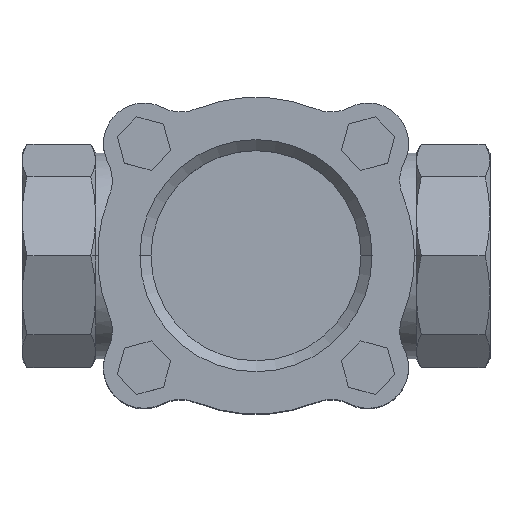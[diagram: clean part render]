
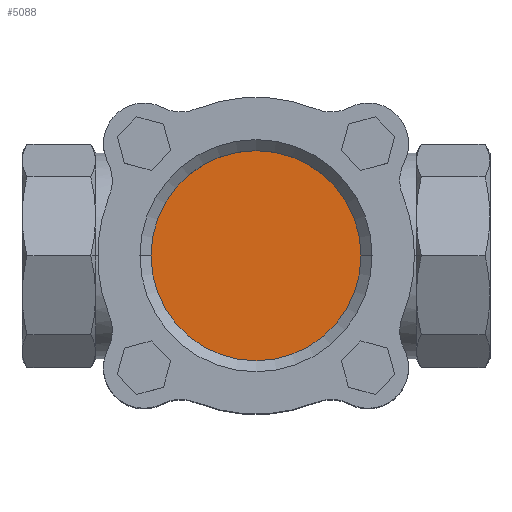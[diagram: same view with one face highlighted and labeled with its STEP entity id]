
A CAD part, top view. The second image highlights one B-rep face of the part: STEP entity #5088.
In plain terms, the highlighted planar face has unit normal (0, 0, 1).
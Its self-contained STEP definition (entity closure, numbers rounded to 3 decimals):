
#61 = FACE_OUTER_BOUND ( 'NONE', #403, .T. ) ;
#294 = CIRCLE ( 'NONE', #3307, 28.5 ) ;
#314 = DIRECTION ( 'NONE',  ( 1., 0., 0. ) ) ;
#403 = EDGE_LOOP ( 'NONE', ( #1397, #1951 ) ) ;
#615 = CARTESIAN_POINT ( 'NONE',  ( 0., 0., 44.8 ) ) ;
#1031 = DIRECTION ( 'NONE',  ( 1., 0., 0. ) ) ;
#1397 = ORIENTED_EDGE ( 'NONE', *, *, #5610, .T. ) ;
#1951 = ORIENTED_EDGE ( 'NONE', *, *, #4298, .T. ) ;
#2760 = AXIS2_PLACEMENT_3D ( 'NONE', #5647, #2909, #314 ) ;
#2772 = DIRECTION ( 'NONE',  ( 0., 0., 1. ) ) ;
#2855 = CARTESIAN_POINT ( 'NONE',  ( 0., 0., 44.8 ) ) ;
#2909 = DIRECTION ( 'NONE',  ( 0., 0., 1. ) ) ;
#3007 = AXIS2_PLACEMENT_3D ( 'NONE', #2855, #5635, #5097 ) ;
#3307 = AXIS2_PLACEMENT_3D ( 'NONE', #615, #2772, #1031 ) ;
#3952 = CARTESIAN_POINT ( 'NONE',  ( 28.5, 0., 44.8 ) ) ;
#4298 = EDGE_CURVE ( 'NONE', #5270, #6066, #6928, .T. ) ;
#4944 = CARTESIAN_POINT ( 'NONE',  ( -28.5, 0., 44.8 ) ) ;
#5088 = ADVANCED_FACE ( 'NONE', ( #61 ), #5574, .T. ) ;
#5097 = DIRECTION ( 'NONE',  ( 1., 0., 0. ) ) ;
#5270 = VERTEX_POINT ( 'NONE', #4944 ) ;
#5574 = PLANE ( 'NONE',  #2760 ) ;
#5610 = EDGE_CURVE ( 'NONE', #6066, #5270, #294, .T. ) ;
#5635 = DIRECTION ( 'NONE',  ( 0., 0., 1. ) ) ;
#5647 = CARTESIAN_POINT ( 'NONE',  ( 0., 28.5, 44.8 ) ) ;
#6066 = VERTEX_POINT ( 'NONE', #3952 ) ;
#6928 = CIRCLE ( 'NONE', #3007, 28.5 ) ;
